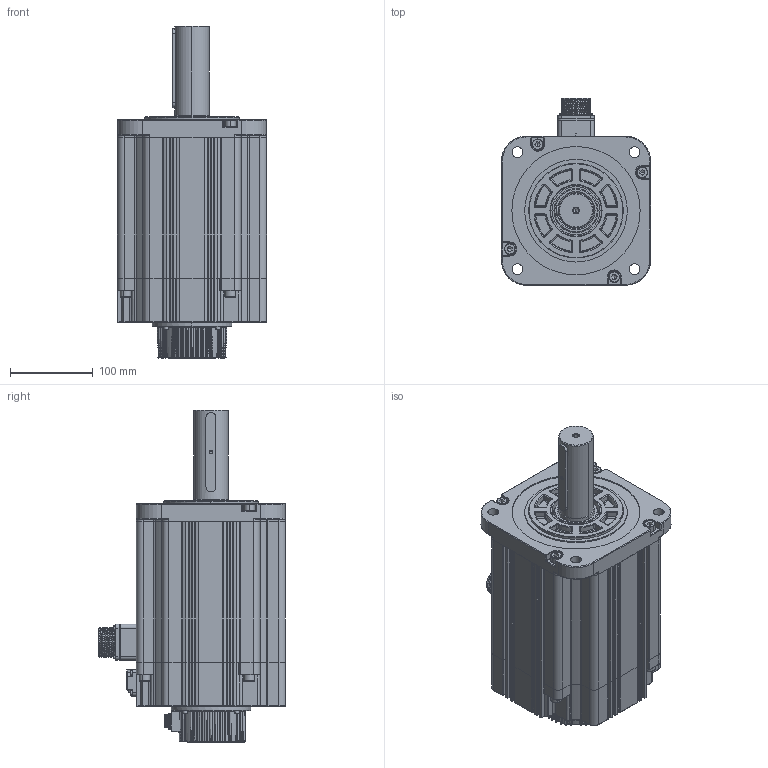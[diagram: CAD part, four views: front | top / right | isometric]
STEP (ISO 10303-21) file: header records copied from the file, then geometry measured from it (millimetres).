
FILE_DESCRIPTION (( 'STEP AP214' ), '1' );
FILE_NAME ('106.5长铁芯 带刹车 B出轴.STEP', '2021-10-25T11:08:32', ( '' ), ( '' ), 'SwSTEP 2.0', 'SolidWorks 2014', '' );
FILE_SCHEMA (( 'AUTOMOTIVE_DESIGN' ));
Length unit declared in the file: millimetre
Products named in the file (20): 180瑤諾脣芛 (湍价陬ㄘ; SC蚐猾 D00B999YF8-TC 44-62-10; 埴芛囀鞠褒 ISO 4762 M3 x 30 --- 18N; 埴芛囀鞠褒 ISO 4762 M3 x 8 --- 8N; SC180ヶ傷裔1009; SC180#綴傷裔蹟隊熬傻-201020; 埴芛囀鞠褒 ISO 4762 M6 x 20 --- 20N; SCSC瑤諾脣芛 16M-9H; 180粣-47沺郋; 180瑤脣釱; 綴傷裔-111; 180#陔隅赽201019; 180儂褲169.5; SC晤鎢ん欶200908_10郋; す瑩^180#陔萇儂-拸价陬 201021; 价陬揤盄裔200912; 坋趼攫芛蹟佪 M2X8-8  H type-N; 埴芛囀鞠褒 ISO 4762 M3 x 10 --- 10N; 106.5长铁芯 带刹车 B出轴; 埴芛囀鞠褒 ISO 4762 M8 x 30 --- 30N
Assembly tree (40 placements, depth 3):
  106.5长铁芯 带刹车 B出轴
    180#陔隅赽201019
      SC180ヶ傷裔1009
    SC晤鎢ん欶200908_10郋
    SCSC瑤諾脣芛 16M-9H
    SC蚐猾 D00B999YF8-TC 44-62-10
    坋趼攫芛蹟佪 M2X8-8  H type-N  x4
    埴芛囀鞠褒 ISO 4762 M3 x 10 --- 10N  x4
    埴芛囀鞠褒 ISO 4762 M8 x 30 --- 30N  x8
    埴芛囀鞠褒 ISO 4762 M3 x 30 --- 18N  x4
    180粣-47沺郋
    す瑩^180#陔萇儂-拸价陬 201021
    綴傷裔-111
      SC180#綴傷裔蹟隊熬傻-201020
    价陬揤盄裔200912
    埴芛囀鞠褒 ISO 4762 M3 x 8 --- 8N  x4
    埴芛囀鞠褒 ISO 4762 M6 x 20 --- 20N  x3
    180瑤脣釱
    180儂褲169.5
    180瑤諾脣芛 (湍价陬ㄘ
Bounding box: 180 x 225.8 x 401 mm (x, y, z)
Volume: 2412216.1 mm3; surface area: 629056.9 mm2
Topology: 39 solids, 39 shells, 3712 faces, 9046 edges, 5285 vertices
Faces by surface type: cylinder 1276, plane 1002, torus 489, bspline 475, cone 288, sphere 182
Entity records: 149812 total; most frequent: CARTESIAN_POINT 45715, ORIENTED_EDGE 15070, DIRECTION 15007, EDGE_CURVE 7535, AXIS2_PLACEMENT_3D 6143, VERTEX_POINT 4527, EDGE_LOOP 3378, CIRCLE 3344
